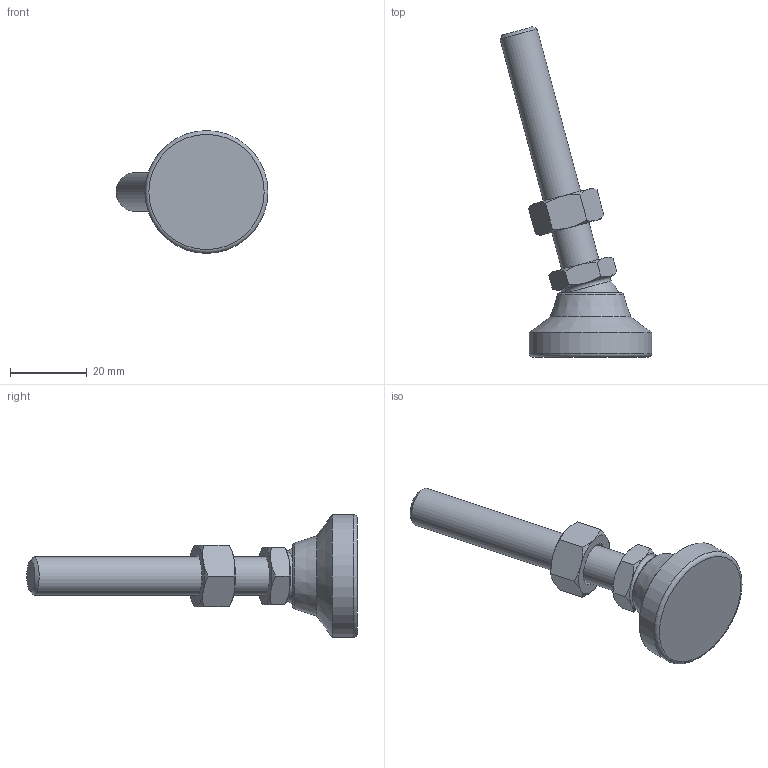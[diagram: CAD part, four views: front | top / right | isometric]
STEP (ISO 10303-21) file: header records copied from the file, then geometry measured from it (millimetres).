
FILE_DESCRIPTION( ( 'STEP AP214' ), ' ' );
FILE_NAME( 'O:/ganter_2015/teil_2/2_5/gn343_2/gn343_2_kse/Levelling foot with threaded stud GN 343.2-32-M10-63-KSE-(15).stp', '2015-10-26T09:15:45', ( '' ), ( '' ), ' ', 'PARTsolutions', ' ' );
FILE_SCHEMA( ( 'AUTOMOTIVE_DESIGN { 1 0 10303 214 1 1 1 1 }' ) );
Length unit declared in the file: millimetre
Products named in the file (4): Levelling foot with threaded stud GN 343.2-32-M10-63-KSE-(15); _Levelling foot with threaded stud GN 343.2-32-M10-63-KSE-(15)_foot; _Levelling foot with threaded stud GN 343.2-32-M10-63-KSE-(15)_screw; _Levelling foot with threaded stud GN 343.2-32-M10-63-KSE-(15)_nut
Assembly tree (3 placements, depth 2):
  Levelling foot with threaded stud GN 343.2-32-M10-63-KSE-(15)
    _Levelling foot with threaded stud GN 343.2-32-M10-63-KSE-(15)_foot
    _Levelling foot with threaded stud GN 343.2-32-M10-63-KSE-(15)_screw
    _Levelling foot with threaded stud GN 343.2-32-M10-63-KSE-(15)_nut
Bounding box: 39.56 x 86.07 x 32 mm (x, y, z)
Volume: 16879.1 mm3; surface area: 6964.8 mm2
Topology: 3 solids, 3 shells, 50 faces, 107 edges, 63 vertices
Faces by surface type: cone 24, plane 18, torus 3, cylinder 3, sphere 2
Full cylindrical faces by diameter (mm): 8.376 x1, 10 x1, 32 x1
Entity records: 1874 total; most frequent: CARTESIAN_POINT 468, DIRECTION 188, ORIENTED_EDGE 176, AXIS2_PLACEMENT_3D 88, EDGE_CURVE 88, EDGE_LOOP 66, VERTEX_POINT 60, FACE_OUTER_BOUND 56
